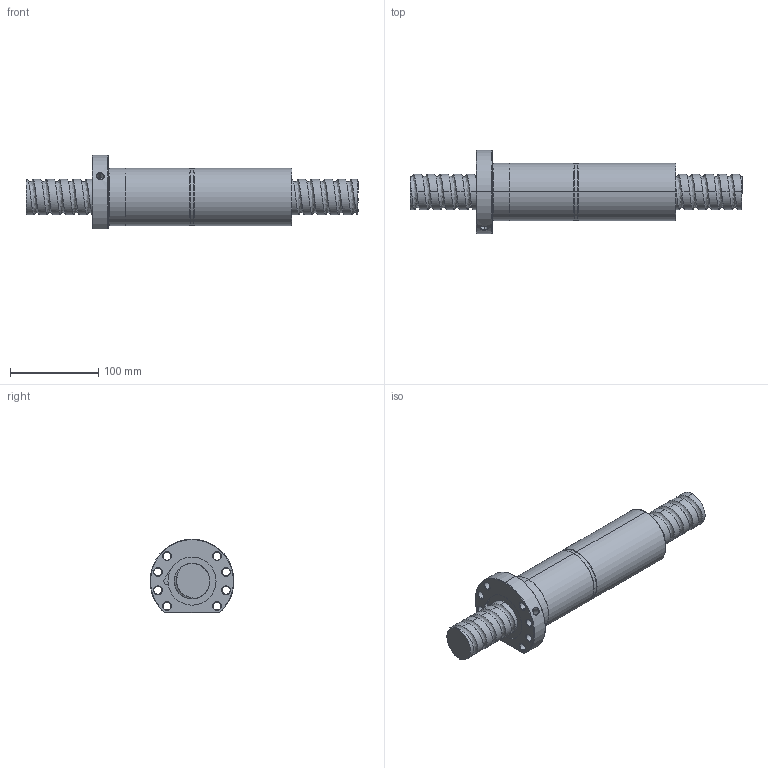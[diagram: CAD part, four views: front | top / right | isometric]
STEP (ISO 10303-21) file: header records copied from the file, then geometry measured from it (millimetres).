
FILE_DESCRIPTION (( 'STEP AP214' ), '1' );
FILE_NAME ('FDDC04015T5-F-B.STEP', '2010-07-06T05:29:26', ( 'XPAUTO' ), ( 'XPAUTO' ), 'SwSTEP 2.0', 'SolidWorks 2007', '' );
FILE_SCHEMA (( 'AUTOMOTIVE_DESIGN' ));
Length unit declared in the file: millimetre
Products named in the file (3): FDDC04015T5-F-B.sldasm-Part-1_預設; FDDC04015T5-F-B; FDDC04015T5-F-B.sldasm-Part-2_預設
Assembly tree (2 placements, depth 2):
  FDDC04015T5-F-B
    FDDC04015T5-F-B.sldasm-Part-2_預設
    FDDC04015T5-F-B.sldasm-Part-1_預設
Bounding box: 376 x 95 x 83.5 mm (x, y, z)
Volume: 945757.7 mm3; surface area: 146008.2 mm2
Topology: 2 solids, 2 shells, 164 faces, 413 edges, 258 vertices
Faces by surface type: cylinder 99, cone 32, plane 19, torus 9, bspline 5
Entity records: 46774 total; most frequent: CARTESIAN_POINT 42883, ORIENTED_EDGE 826, DIRECTION 751, EDGE_CURVE 413, AXIS2_PLACEMENT_3D 304, VERTEX_POINT 258, EDGE_LOOP 189, FACE_OUTER_BOUND 164
